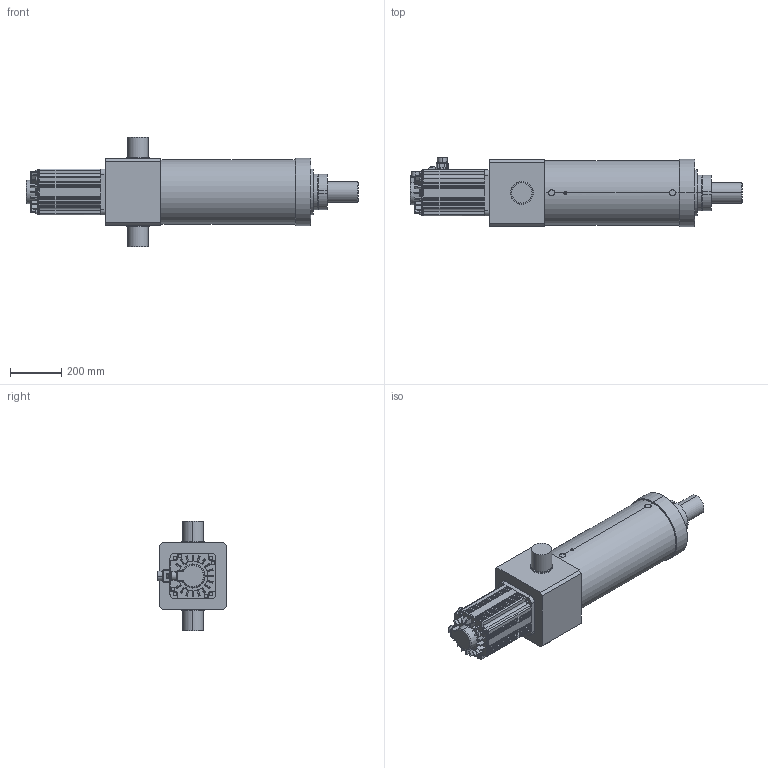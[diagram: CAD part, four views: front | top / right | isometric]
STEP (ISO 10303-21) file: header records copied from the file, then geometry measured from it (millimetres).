
FILE_DESCRIPTION (( 'STEP AP203' ), '1' );
FILE_NAME ('S9眻盄嫉粣假蚾.STEP', '2024-05-27T05:44:25', ( '' ), ( '' ), 'SwSTEP 2.0', 'SolidWorks 2018', '' );
FILE_SCHEMA (( 'CONFIG_CONTROL_DESIGN' ));
Length unit declared in the file: millimetre
Products named in the file (3): S9眻盄嫉粣; ECMA-LX1855S3-180框號系列機種-5.5KW-400V高慣量系列; S9眻盄嫉粣假蚾
Assembly tree (2 placements, depth 2):
  S9眻盄嫉粣假蚾
    S9眻盄嫉粣
    ECMA-LX1855S3-180框號系列機種-5.5KW-400V高慣量系列
Bounding box: 1299.4 x 272.52 x 430 mm (x, y, z)
Volume: 54530532.3 mm3; surface area: 1380637.4 mm2
Topology: 2 solids, 4 shells, 740 faces, 1714 edges, 1051 vertices
Faces by surface type: plane 367, cylinder 264, cone 58, bspline 31, torus 20
Entity records: 23641 total; most frequent: CARTESIAN_POINT 6794, ORIENTED_EDGE 3424, DIRECTION 3394, EDGE_CURVE 1712, AXIS2_PLACEMENT_3D 1223, VERTEX_POINT 1051, LINE 948, VECTOR 948
